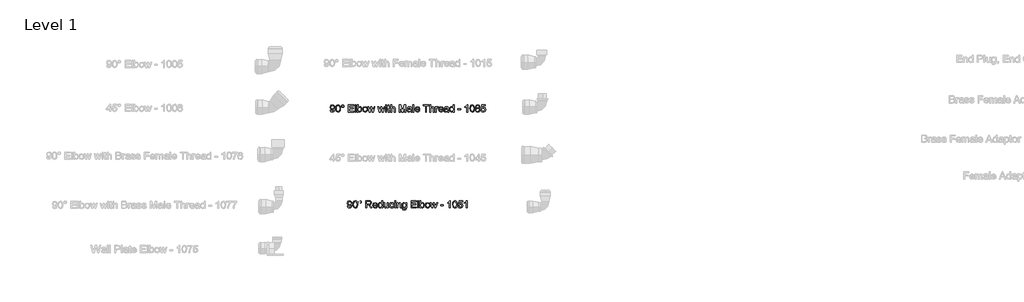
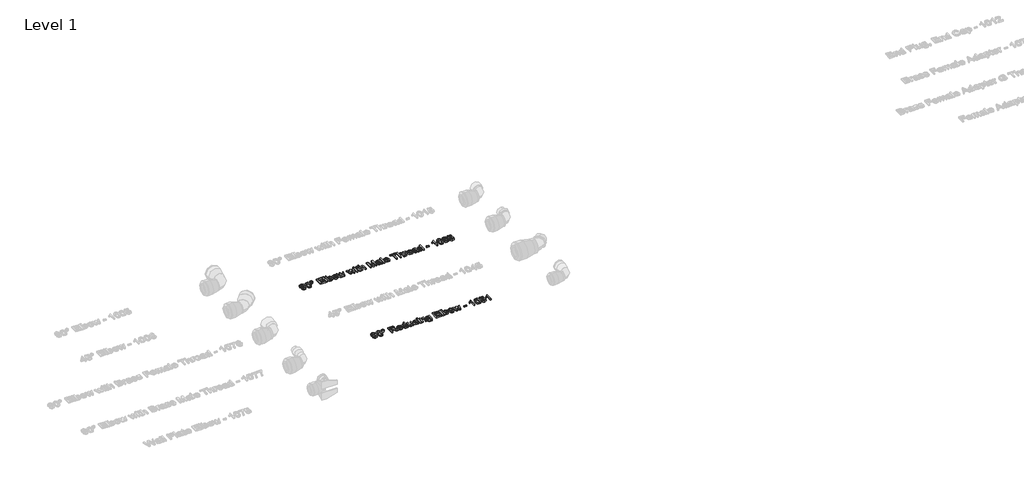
# One storey, part 7 of 13: 2 proxies.
"""IFC4 building model written with IfcOpenShell, lengths in millimetres."""

from ifc_helpers import new_model, si_unit, origin, origin_with_axes, place, context, project, spatial, polyline, outline, extrude, element, save

model = new_model("IFC4")

# Units and contexts
model_context = context("Model", 3, world=origin())
ifc_project = project(units=[si_unit("LENGTHUNIT", "METRE", prefix="MILLI")], contexts=[model_context])

# Site, building, storey
site = spatial("IfcSite", under=ifc_project)
building = spatial("IfcBuilding", under=site)
storey = spatial("IfcBuildingStorey", under=building, Name="Level 1", Elevation=0.0)

# Proxies
placement = place(None, origin())
element("IfcBuildingElementProxy", 1, Name="30 mm Arial", ObjectType="30 mm Arial", at=placement, inside=storey, context=model_context, shape_type="SweptSolid", body=[
    extrude(outline(polyline([(13088.1678756, 4730.4436925), (13091.8601833, 4730.9052309), (13093.5188371, 4727.3823944), (13096.6630679, 4726.2898463), (13099.6522506, 4726.9929713), (13101.6786929, 4728.8715771), (13102.8866256, 4732.0807117), (13103.4202795, 4736.3643655), (13100.4455198, 4734.2874425), (13096.396241, 4733.2129232), (13090.2267698, 4735.8379232), (13087.7063371, 4742.7537886), (13090.349366, 4749.8932117), (13096.9731641, 4752.5975386), (13102.2339814, 4751.0542694), (13105.8541737, 4746.6552309), (13107.0909525, 4738.3908078), (13105.8577795, 4729.4232598), (13102.1907121, 4724.3427309), (13096.489991, 4722.5975386), (13090.8145102, 4724.6564328), (13088.1678756, 4730.4436925)]), holes=[polyline([(13103.3986448, 4742.8403271), (13101.8048948, 4747.2682117), (13097.5717218, 4748.9052309), (13093.1294141, 4747.1420098), (13091.3986448, 4742.5735001), (13093.0356641, 4738.4809521), (13097.4707602, 4736.9052309), (13101.7291737, 4738.4809521), (13103.3986448, 4742.8403271)])]), origin_with_axes(), (0.0, 0.0, 1.0), 5.0),
    extrude(outline(polyline([(13110.3217218, 4737.5903271), (13111.4070583, 4746.0891251), (13114.630616, 4750.9893655), (13120.0140295, 4752.5975386), (13124.3265295, 4751.6456155), (13127.3048948, 4748.9016251), (13129.0356641, 4744.5314328), (13129.7063371, 4737.5903271), (13128.6318179, 4729.1275867), (13125.4190775, 4724.216529), (13120.0140295, 4722.5975386), (13113.2640295, 4725.4100386), (13110.3217218, 4737.5903271)]), holes=[polyline([(13114.0140295, 4737.5975386), (13115.7447987, 4728.4280675), (13120.0140295, 4726.2898463), (13124.2832602, 4728.435279), (13126.0140295, 4737.5975386), (13124.3409525, 4746.6624425), (13119.9707602, 4748.9052309), (13115.802491, 4746.9292694), (13114.0140295, 4737.5975386)])]), origin_with_axes(), (0.0, 0.0, 1.0), 5.0),
    extrude(outline(polyline([(13133.8601833, 4747.5278271), (13135.4863852, 4751.4436925), (13139.3914333, 4753.0590771), (13143.3217218, 4751.4436925), (13144.9371064, 4747.5278271), (13143.3109045, 4743.6083559), (13139.3914333, 4741.982154), (13135.4863852, 4743.5975386), (13133.8601833, 4747.5278271)]), holes=[polyline([(13136.1678756, 4747.5206155), (13137.1161929, 4745.2345578), (13139.4058564, 4744.2898463), (13141.6810968, 4745.2345578), (13142.6294141, 4747.5206155), (13141.6810968, 4749.8066732), (13139.4058564, 4750.7513848), (13137.1161929, 4749.8066732), (13136.1678756, 4747.5206155)])]), origin_with_axes(), (0.0, 0.0, 1.0), 5.0),
    extrude(outline(polyline([(13162.4755679, 4723.0590771), (13162.4755679, 4752.5975386), (13183.7063371, 4752.5975386), (13183.7063371, 4748.9052309), (13166.1678756, 4748.9052309), (13166.1678756, 4740.1360001), (13182.7832602, 4740.1360001), (13182.7832602, 4736.4436925), (13166.1678756, 4736.4436925), (13166.1678756, 4726.7513848), (13184.1678756, 4726.7513848), (13184.1678756, 4723.0590771), (13162.4755679, 4723.0590771)])), origin_with_axes(), (0.0, 0.0, 1.0), 5.0),
    extrude(outline(polyline([(13189.2447987, 4723.0590771), (13189.2447987, 4752.5975386), (13192.9371064, 4752.5975386), (13192.9371064, 4723.0590771), (13189.2447987, 4723.0590771)])), origin_with_axes(), (0.0, 0.0, 1.0), 5.0),
    extrude(outline(polyline([(13202.1678756, 4723.0590771), (13198.4755679, 4723.0590771), (13198.4755679, 4752.5975386), (13202.1678756, 4752.5975386), (13202.1678756, 4741.6432117), (13207.9659525, 4745.2129232), (13211.6654718, 4744.4088367), (13214.5356641, 4742.1480194), (13216.2988852, 4738.6323944), (13216.9371064, 4734.2297501), (13214.2940775, 4725.6335963), (13207.9443179, 4722.5975386), (13202.1678756, 4726.513404), (13202.1678756, 4723.0590771)]), holes=[polyline([(13202.1678756, 4734.0566732), (13203.177491, 4728.8932117), (13207.6270102, 4726.2898463), (13211.5789333, 4728.2081155), (13213.2447987, 4733.9268655), (13211.6474429, 4739.6672501), (13207.7856641, 4741.5206155), (13203.833741, 4739.6023463), (13202.1678756, 4734.0566732)])]), origin_with_axes(), (0.0, 0.0, 1.0), 5.0),
    extrude(outline(polyline([(13220.1678756, 4733.9052309), (13223.3625871, 4742.8114809), (13229.8673948, 4745.2129232), (13236.8445583, 4742.2886444), (13239.552491, 4734.2081155), (13238.3553756, 4727.638404), (13234.8685968, 4723.9208559), (13229.8673948, 4722.5975386), (13222.8469621, 4725.5110001), (13220.1678756, 4733.9052309)]), holes=[polyline([(13223.8601833, 4733.9124425), (13225.5693179, 4728.1900867), (13229.8673948, 4726.2898463), (13234.1510487, 4728.200904), (13235.8601833, 4734.0278271), (13234.1402314, 4739.6203751), (13229.8673948, 4741.5206155), (13225.5693179, 4739.6275867), (13223.8601833, 4733.9124425)])]), origin_with_axes(), (0.0, 0.0, 1.0), 5.0),
    extrude(outline(polyline([(13247.3048948, 4723.0590771), (13240.7063371, 4744.7513848), (13244.5428756, 4744.7513848), (13248.2856641, 4732.0951348), (13249.4034525, 4727.5735001), (13250.3193179, 4731.9292694), (13253.2976833, 4744.7513848), (13257.6967218, 4744.7513848), (13260.6606641, 4731.9653271), (13261.4755679, 4728.0206155), (13262.6438371, 4732.1816732), (13266.3938371, 4744.7513848), (13270.2447987, 4744.7513848), (13263.5957602, 4723.0590771), (13259.1318179, 4723.0590771), (13256.2976833, 4735.7802309), (13255.4755679, 4739.7465771), (13251.8193179, 4723.0590771), (13247.3048948, 4723.0590771)])), origin_with_axes(), (0.0, 0.0, 1.0), 5.0),
    extrude(outline(polyline([(13287.9202795, 4723.0590771), (13281.3217218, 4744.7513848), (13285.1582602, 4744.7513848), (13288.9010487, 4732.0951348), (13290.0188371, 4727.5735001), (13290.9347025, 4731.9292694), (13293.9130679, 4744.7513848), (13298.3121064, 4744.7513848), (13301.2760487, 4731.9653271), (13302.0909525, 4728.0206155), (13303.2592218, 4732.1816732), (13307.0092218, 4744.7513848), (13310.8601833, 4744.7513848), (13304.2111448, 4723.0590771), (13299.7472025, 4723.0590771), (13296.9130679, 4735.7802309), (13296.0909525, 4739.7465771), (13292.4347025, 4723.0590771), (13287.9202795, 4723.0590771)])), origin_with_axes(), (0.0, 0.0, 1.0), 5.0),
    extrude(outline(polyline([(13313.3986448, 4748.9052309), (13313.3986448, 4752.5975386), (13317.0909525, 4752.5975386), (13317.0909525, 4748.9052309), (13313.3986448, 4748.9052309)])), origin_with_axes(), (0.0, 0.0, 1.0), 5.0),
    extrude(outline(polyline([(13313.3986448, 4723.0590771), (13313.3986448, 4744.7513848), (13317.0909525, 4744.7513848), (13317.0909525, 4723.0590771), (13313.3986448, 4723.0590771)])), origin_with_axes(), (0.0, 0.0, 1.0), 5.0),
    extrude(outline(polyline([(13330.4755679, 4726.138404), (13330.9371064, 4722.950904), (13328.1750871, 4722.5975386), (13325.0813371, 4723.2105194), (13323.5380679, 4724.8186925), (13323.0909525, 4729.0085963), (13323.0909525, 4741.0590771), (13320.3217218, 4741.0590771), (13320.3217218, 4744.7513848), (13323.0909525, 4744.7513848), (13323.0909525, 4750.0230194), (13326.7832602, 4752.1936925), (13326.7832602, 4744.7513848), (13330.4755679, 4744.7513848), (13330.4755679, 4741.0590771), (13326.7832602, 4741.0590771), (13326.7832602, 4729.1167694), (13326.9779718, 4727.2129232), (13330.4755679, 4726.138404)])), origin_with_axes(), (0.0, 0.0, 1.0), 5.0),
    extrude(outline(polyline([(13334.1678756, 4723.0590771), (13334.1678756, 4752.5975386), (13337.8601833, 4752.5975386), (13337.8601833, 4741.7369617), (13344.2856641, 4745.2129232), (13348.4322987, 4744.2646059), (13350.9491256, 4741.6432117), (13351.7063371, 4736.7898463), (13351.7063371, 4723.0590771), (13348.0140295, 4723.0590771), (13348.0140295, 4736.4076348), (13346.8385487, 4740.3018655), (13343.5068179, 4741.5206155), (13340.4815775, 4740.6985001), (13338.4623468, 4738.4701348), (13337.8601833, 4734.5831155), (13337.8601833, 4723.0590771), (13334.1678756, 4723.0590771)])), origin_with_axes(), (0.0, 0.0, 1.0), 5.0),
    extrude(outline(polyline([(13368.7832602, 4723.0590771), (13368.7832602, 4752.5975386), (13375.1366256, 4752.5975386), (13381.1798948, 4731.7778271), (13382.3986448, 4727.4292694), (13383.7183564, 4732.138404), (13389.6606641, 4752.5975386), (13396.0140295, 4752.5975386), (13396.0140295, 4723.0590771), (13392.3217218, 4723.0590771), (13392.3217218, 4748.9052309), (13384.9010487, 4723.0590771), (13379.896241, 4723.0590771), (13372.4755679, 4748.9052309), (13372.4755679, 4723.0590771), (13368.7832602, 4723.0590771)])), origin_with_axes(), (0.0, 0.0, 1.0), 5.0),
    extrude(outline(polyline([(13415.8601833, 4725.8283078), (13412.2796545, 4723.325904), (13408.3241256, 4722.5975386), (13402.9623468, 4724.3499425), (13401.0909525, 4728.8283078), (13401.7976833, 4731.7489809), (13403.6546545, 4733.8691732), (13406.239991, 4735.0807117), (13409.4347025, 4735.6360001), (13415.8385487, 4736.9052309), (13414.8433564, 4740.4533078), (13410.7616256, 4741.5206155), (13407.0260487, 4740.810279), (13405.2447987, 4738.2898463), (13401.552491, 4738.7513848), (13403.1498468, 4742.357154), (13406.3661929, 4744.4701348), (13411.2375871, 4745.2129232), (13415.7123468, 4744.5566732), (13418.239991, 4742.9088367), (13419.3722025, 4740.4028271), (13419.552491, 4737.1720578), (13419.552491, 4732.5783078), (13419.739991, 4726.1636444), (13420.4755679, 4723.0590771), (13416.7832602, 4723.0590771), (13415.8601833, 4725.8283078)]), holes=[polyline([(13415.849366, 4732.6900867), (13409.9034525, 4732.0807117), (13406.7267698, 4731.482154), (13405.2880679, 4730.5085963), (13405.8830198, 4727.0903271), (13409.1101833, 4726.2898463), (13412.8457602, 4727.1732598), (13415.2544141, 4729.3114809), (13415.849366, 4732.6900867)])]), origin_with_axes(), (0.0, 0.0, 1.0), 5.0),
    extrude(outline(polyline([(13424.6294141, 4723.0590771), (13424.6294141, 4752.5975386), (13428.3217218, 4752.5975386), (13428.3217218, 4723.0590771), (13424.6294141, 4723.0590771)])), origin_with_axes(), (0.0, 0.0, 1.0), 5.0),
    extrude(outline(polyline([(13449.0476833, 4729.5206155), (13452.6678756, 4729.0590771), (13449.2820583, 4724.2922501), (13442.9755679, 4722.5975386), (13435.3097025, 4725.5218175), (13432.4755679, 4733.7249425), (13435.3385487, 4742.1985001), (13442.7664333, 4745.2129232), (13449.9815775, 4742.2057117), (13452.7832602, 4733.7465771), (13436.1678756, 4732.7513848), (13438.2916737, 4727.9557117), (13443.0476833, 4726.2898463), (13446.6678756, 4727.0614809), (13449.0476833, 4729.5206155)]), holes=[polyline([(13436.1678756, 4736.4436925), (13449.0909525, 4736.4436925), (13447.6125871, 4739.7898463), (13442.7520102, 4741.5206155), (13438.2051352, 4740.1396059), (13436.1678756, 4736.4436925)])]), origin_with_axes(), (0.0, 0.0, 1.0), 5.0),
    extrude(outline(polyline([(13475.8601833, 4723.0590771), (13475.8601833, 4748.9052309), (13466.1678756, 4748.9052309), (13466.1678756, 4752.5975386), (13489.2447987, 4752.5975386), (13489.2447987, 4748.9052309), (13479.552491, 4748.9052309), (13479.552491, 4723.0590771), (13475.8601833, 4723.0590771)])), origin_with_axes(), (0.0, 0.0, 1.0), 5.0),
    extrude(outline(polyline([(13492.9371064, 4723.0590771), (13492.9371064, 4752.5975386), (13496.6294141, 4752.5975386), (13496.6294141, 4741.7369617), (13503.0548948, 4745.2129232), (13507.2015295, 4744.2646059), (13509.7183564, 4741.6432117), (13510.4755679, 4736.7898463), (13510.4755679, 4723.0590771), (13506.7832602, 4723.0590771), (13506.7832602, 4736.4076348), (13505.6077795, 4740.3018655), (13502.2760487, 4741.5206155), (13499.2508083, 4740.6985001), (13497.2315775, 4738.4701348), (13496.6294141, 4734.5831155), (13496.6294141, 4723.0590771), (13492.9371064, 4723.0590771)])), origin_with_axes(), (0.0, 0.0, 1.0), 5.0),
    extrude(outline(polyline([(13515.552491, 4723.0590771), (13515.552491, 4744.7513848), (13518.7832602, 4744.7513848), (13518.7832602, 4741.5422501), (13521.0765295, 4744.4989809), (13523.3842218, 4745.2129232), (13527.0909525, 4744.0735001), (13525.8577795, 4740.763404), (13523.2616256, 4741.5206155), (13521.1738852, 4740.7922501), (13519.8433564, 4738.7730194), (13519.2447987, 4734.4605194), (13519.2447987, 4723.0590771), (13515.552491, 4723.0590771)])), origin_with_axes(), (0.0, 0.0, 1.0), 5.0),
    extrude(outline(polyline([(13544.5861448, 4729.5206155), (13548.2063371, 4729.0590771), (13544.8205198, 4724.2922501), (13538.5140295, 4722.5975386), (13530.8481641, 4725.5218175), (13528.0140295, 4733.7249425), (13530.8770102, 4742.1985001), (13538.3048948, 4745.2129232), (13545.5200391, 4742.2057117), (13548.3217218, 4733.7465771), (13531.7063371, 4732.7513848), (13533.8301352, 4727.9557117), (13538.5861448, 4726.2898463), (13542.2063371, 4727.0614809), (13544.5861448, 4729.5206155)]), holes=[polyline([(13531.7063371, 4736.4436925), (13544.6294141, 4736.4436925), (13543.1510487, 4739.7898463), (13538.2904718, 4741.5206155), (13533.7435968, 4740.1396059), (13531.7063371, 4736.4436925)])]), origin_with_axes(), (0.0, 0.0, 1.0), 5.0),
    extrude(outline(polyline([(13565.8601833, 4725.8283078), (13562.2796545, 4723.325904), (13558.3241256, 4722.5975386), (13552.9623468, 4724.3499425), (13551.0909525, 4728.8283078), (13551.7976833, 4731.7489809), (13553.6546545, 4733.8691732), (13556.239991, 4735.0807117), (13559.4347025, 4735.6360001), (13565.8385487, 4736.9052309), (13564.8433564, 4740.4533078), (13560.7616256, 4741.5206155), (13557.0260487, 4740.810279), (13555.2447987, 4738.2898463), (13551.552491, 4738.7513848), (13553.1498468, 4742.357154), (13556.3661929, 4744.4701348), (13561.2375871, 4745.2129232), (13565.7123468, 4744.5566732), (13568.239991, 4742.9088367), (13569.3722025, 4740.4028271), (13569.552491, 4737.1720578), (13569.552491, 4732.5783078), (13569.739991, 4726.1636444), (13570.4755679, 4723.0590771), (13566.7832602, 4723.0590771), (13565.8601833, 4725.8283078)]), holes=[polyline([(13565.849366, 4732.6900867), (13559.9034525, 4732.0807117), (13556.7267698, 4731.482154), (13555.2880679, 4730.5085963), (13555.8830198, 4727.0903271), (13559.1101833, 4726.2898463), (13562.8457602, 4727.1732598), (13565.2544141, 4729.3114809), (13565.849366, 4732.6900867)])]), origin_with_axes(), (0.0, 0.0, 1.0), 5.0),
    extrude(outline(polyline([(13588.0140295, 4723.0590771), (13588.0140295, 4726.5422501), (13582.1943179, 4722.5975386), (13577.6222025, 4724.0254232), (13574.3914333, 4728.0097982), (13573.2447987, 4733.8835963), (13574.3012891, 4739.7610001), (13577.4671545, 4743.8066732), (13582.1798948, 4745.2129232), (13585.583741, 4744.2069136), (13588.0140295, 4741.5927309), (13588.0140295, 4752.5975386), (13591.7063371, 4752.5975386), (13591.7063371, 4723.0590771), (13588.0140295, 4723.0590771)]), holes=[polyline([(13576.9371064, 4733.8980194), (13578.6029718, 4728.1828751), (13582.5332602, 4726.2898463), (13586.4166737, 4728.0963367), (13588.0140295, 4733.6167694), (13586.3878275, 4739.6095578), (13582.3818179, 4741.5206155), (13578.4947987, 4739.685279), (13576.9371064, 4733.8980194)])]), origin_with_axes(), (0.0, 0.0, 1.0), 5.0),
    extrude(outline(polyline([(13606.9371064, 4731.8283078), (13606.9371064, 4735.5206155), (13618.4755679, 4735.5206155), (13618.4755679, 4731.8283078), (13606.9371064, 4731.8283078)])), origin_with_axes(), (0.0, 0.0, 1.0), 5.0),
    extrude(outline(polyline([(13647.0909525, 4723.0590771), (13643.3986448, 4723.0590771), (13643.3986448, 4746.0783078), (13639.9010487, 4743.5867213), (13636.0140295, 4741.7225386), (13636.0140295, 4745.2129232), (13641.4262891, 4748.6672501), (13644.7111448, 4752.5975386), (13647.0909525, 4752.5975386), (13647.0909525, 4723.0590771)])), origin_with_axes(), (0.0, 0.0, 1.0), 5.0),
    extrude(outline(polyline([(13655.8601833, 4737.5903271), (13656.9455198, 4746.0891251), (13660.1690775, 4750.9893655), (13665.552491, 4752.5975386), (13669.864991, 4751.6456155), (13672.8433564, 4748.9016251), (13674.5741256, 4744.5314328), (13675.2447987, 4737.5903271), (13674.1702795, 4729.1275867), (13670.9575391, 4724.216529), (13665.552491, 4722.5975386), (13658.802491, 4725.4100386), (13655.8601833, 4737.5903271)]), holes=[polyline([(13659.552491, 4737.5975386), (13661.2832602, 4728.4280675), (13665.552491, 4726.2898463), (13669.8217218, 4728.435279), (13671.552491, 4737.5975386), (13669.8794141, 4746.6624425), (13665.5092218, 4748.9052309), (13661.3409525, 4746.9292694), (13659.552491, 4737.5975386)])]), origin_with_axes(), (0.0, 0.0, 1.0), 5.0),
    extrude(outline(polyline([(13683.8553756, 4739.3283078), (13680.4911929, 4741.6215771), (13679.3986448, 4745.1912886), (13681.7784525, 4750.4629232), (13688.1173948, 4752.5975386), (13694.5140295, 4750.4124425), (13696.9371064, 4745.0903271), (13695.8589814, 4741.6107598), (13692.5885487, 4739.3283078), (13696.5152314, 4736.4328751), (13697.8601833, 4731.6552309), (13695.1919141, 4725.2081155), (13688.1678756, 4722.5975386), (13681.1438371, 4725.2189328), (13678.4755679, 4731.7561925), (13679.8746064, 4736.6456155), (13683.8553756, 4739.3283078)]), holes=[polyline([(13683.0909525, 4745.0831155), (13684.3998468, 4742.1840771), (13688.2111448, 4741.0590771), (13691.9467218, 4742.1768655), (13693.2447987, 4744.9172501), (13691.9034525, 4747.7549905), (13688.1678756, 4748.9052309), (13684.4214814, 4747.7802309), (13683.0909525, 4745.0831155)]), polyline([(13682.1678756, 4731.8860001), (13682.7844621, 4729.1059521), (13684.9659525, 4727.0254232), (13688.1967218, 4726.2898463), (13692.5957602, 4727.8367213), (13694.1678756, 4731.7706155), (13692.5452795, 4735.7802309), (13688.0741256, 4737.3667694), (13683.7291737, 4735.8018655), (13682.1678756, 4731.8860001)])]), origin_with_axes(), (0.0, 0.0, 1.0), 5.0),
    extrude(outline(polyline([(13701.0909525, 4730.9052309), (13704.7832602, 4731.3667694), (13706.6438371, 4727.5626828), (13710.5020102, 4726.2898463), (13715.1318179, 4728.060279), (13716.7832602, 4732.7585963), (13715.2363852, 4737.1432117), (13710.5597025, 4738.7513848), (13707.318116, 4738.1095578), (13705.2447987, 4736.4436925), (13701.552491, 4736.9052309), (13704.7832602, 4752.1360001), (13719.0909525, 4752.1360001), (13719.0909525, 4748.4436925), (13707.7688371, 4748.4436925), (13706.1895102, 4740.3090771), (13711.5909525, 4742.4436925), (13717.9046545, 4739.7970578), (13720.4755679, 4732.9893655), (13718.1606641, 4726.138404), (13710.4875871, 4722.5975386), (13703.9719621, 4724.872779), (13701.0909525, 4730.9052309)])), origin_with_axes(), (0.0, 0.0, 1.0), 5.0),
])
element("IfcBuildingElementProxy", 2, Name="30 mm Arial", ObjectType="30 mm Arial", at=placement, inside=storey, context=model_context, shape_type="SweptSolid", body=[
    extrude(outline(polyline([(13158.3217218, 4340.2892741), (13162.0140295, 4340.7508126), (13163.6726833, 4337.2279761), (13166.8169141, 4336.135428), (13169.8060968, 4336.838553), (13171.8325391, 4338.7171588), (13173.0404718, 4341.9262934), (13173.5741256, 4346.2099472), (13170.599366, 4344.1330241), (13166.5500871, 4343.0585049), (13160.380616, 4345.6835049), (13157.8601833, 4352.5993703), (13160.5032121, 4359.7387934), (13167.1270102, 4362.4431203), (13172.3878275, 4360.8998511), (13176.0080198, 4356.5008126), (13177.2447987, 4348.2363895), (13176.0116256, 4339.2688414), (13172.3445583, 4334.1883126), (13166.6438371, 4332.4431203), (13160.9683564, 4334.5020145), (13158.3217218, 4340.2892741)]), holes=[polyline([(13173.552491, 4352.6859088), (13171.958741, 4357.1137934), (13167.7255679, 4358.7508126), (13163.2832602, 4356.9875914), (13161.552491, 4352.4190818), (13163.1895102, 4348.3265338), (13167.6246064, 4346.7508126), (13171.8830198, 4348.3265338), (13173.552491, 4352.6859088)])]), origin_with_axes(), (0.0, 0.0, 1.0), 5.0),
    extrude(outline(polyline([(13180.4755679, 4347.4359088), (13181.5609045, 4355.9347068), (13184.7844621, 4360.8349472), (13190.1678756, 4362.4431203), (13194.4803756, 4361.4911972), (13197.458741, 4358.7472068), (13199.1895102, 4354.3770145), (13199.8601833, 4347.4359088), (13198.7856641, 4338.9731684), (13195.5729237, 4334.0621107), (13190.1678756, 4332.4431203), (13183.4178756, 4335.2556203), (13180.4755679, 4347.4359088)]), holes=[polyline([(13184.1678756, 4347.4431203), (13185.8986448, 4338.2736491), (13190.1678756, 4336.135428), (13194.4371064, 4338.2808607), (13196.1678756, 4347.4431203), (13194.4947987, 4356.5080241), (13190.1246064, 4358.7508126), (13185.9563371, 4356.7748511), (13184.1678756, 4347.4431203)])]), origin_with_axes(), (0.0, 0.0, 1.0), 5.0),
    extrude(outline(polyline([(13204.0140295, 4357.3734088), (13205.6402314, 4361.2892741), (13209.5452795, 4362.9046588), (13213.4755679, 4361.2892741), (13215.0909525, 4357.3734088), (13213.4647506, 4353.4539376), (13209.5452795, 4351.8277357), (13205.6402314, 4353.4431203), (13204.0140295, 4357.3734088)]), holes=[polyline([(13206.3217218, 4357.3661972), (13207.2700391, 4355.0801395), (13209.5597025, 4354.135428), (13211.8349429, 4355.0801395), (13212.7832602, 4357.3661972), (13211.8349429, 4359.6522549), (13209.5597025, 4360.5969664), (13207.2700391, 4359.6522549), (13206.3217218, 4357.3661972)])]), origin_with_axes(), (0.0, 0.0, 1.0), 5.0),
    extrude(outline(polyline([(13232.6294141, 4332.9046588), (13232.6294141, 4362.4431203), (13245.3577795, 4362.4431203), (13251.2676352, 4361.6462453), (13254.4984045, 4358.8265338), (13255.7063371, 4354.3589857), (13253.7051352, 4349.0368703), (13247.521241, 4346.2892741), (13249.6197987, 4344.7099472), (13252.6125871, 4340.9094664), (13257.5380679, 4332.9046588), (13253.2472025, 4332.9046588), (13249.4034525, 4339.0272549), (13246.6270102, 4343.0801395), (13244.6762891, 4344.994803), (13242.9202795, 4345.697928), (13240.7784525, 4345.8277357), (13236.3217218, 4345.8277357), (13236.3217218, 4332.9046588), (13232.6294141, 4332.9046588)]), holes=[polyline([(13236.3217218, 4349.5200434), (13244.5861448, 4349.5200434), (13248.8012891, 4350.0428799), (13251.1955198, 4351.7159568), (13252.0140295, 4354.2219664), (13250.4527314, 4357.4743703), (13245.5164333, 4358.7508126), (13236.3217218, 4358.7508126), (13236.3217218, 4349.5200434)])]), origin_with_axes(), (0.0, 0.0, 1.0), 5.0),
    extrude(outline(polyline([(13276.8938371, 4339.3661972), (13280.5140295, 4338.9046588), (13277.1282121, 4334.1378318), (13270.8217218, 4332.4431203), (13263.1558564, 4335.3673991), (13260.3217218, 4343.5705241), (13263.1847025, 4352.0440818), (13270.6125871, 4355.0585049), (13277.8277314, 4352.0512934), (13280.6294141, 4343.5921588), (13264.0140295, 4342.5969664), (13266.1378275, 4337.8012934), (13270.8938371, 4336.135428), (13274.5140295, 4336.9070626), (13276.8938371, 4339.3661972)]), holes=[polyline([(13264.0140295, 4346.2892741), (13276.9371064, 4346.2892741), (13275.458741, 4349.635428), (13270.5981641, 4351.3661972), (13266.0512891, 4349.9851876), (13264.0140295, 4346.2892741)])]), origin_with_axes(), (0.0, 0.0, 1.0), 5.0),
    extrude(outline(polyline([(13297.7063371, 4332.9046588), (13297.7063371, 4336.3878318), (13291.8866256, 4332.4431203), (13287.3145102, 4333.8710049), (13284.083741, 4337.8553799), (13282.9371064, 4343.729178), (13283.9935968, 4349.6065818), (13287.1594621, 4353.6522549), (13291.8722025, 4355.0585049), (13295.2760487, 4354.0524953), (13297.7063371, 4351.4383126), (13297.7063371, 4362.4431203), (13301.3986448, 4362.4431203), (13301.3986448, 4332.9046588), (13297.7063371, 4332.9046588)]), holes=[polyline([(13286.6294141, 4343.7436011), (13288.2952795, 4338.0284568), (13292.2255679, 4336.135428), (13296.1089814, 4337.9419184), (13297.7063371, 4343.4623511), (13296.0801352, 4349.4551395), (13292.0741256, 4351.3661972), (13288.1871064, 4349.5308607), (13286.6294141, 4343.7436011)])]), origin_with_axes(), (0.0, 0.0, 1.0), 5.0),
    extrude(outline(polyline([(13320.7832602, 4332.9046588), (13320.7832602, 4336.6330241), (13314.1197987, 4332.4431203), (13310.6474429, 4333.1786972), (13308.2532121, 4335.0248511), (13307.1534525, 4337.7436011), (13306.9371064, 4341.1762934), (13306.9371064, 4354.5969664), (13310.6294141, 4354.5969664), (13310.6294141, 4342.9142741), (13310.8529718, 4339.1498511), (13312.3133083, 4336.9395145), (13315.0645102, 4336.135428), (13318.1474429, 4336.9575434), (13320.1847025, 4339.1967261), (13320.7832602, 4343.3109088), (13320.7832602, 4354.5969664), (13324.4755679, 4354.5969664), (13324.4755679, 4332.9046588), (13320.7832602, 4332.9046588)])), origin_with_axes(), (0.0, 0.0, 1.0), 5.0),
    extrude(outline(polyline([(13343.3986448, 4340.7508126), (13347.0909525, 4340.2892741), (13344.1270102, 4334.5236491), (13338.271241, 4332.4431203), (13331.2724429, 4335.3457645), (13328.6294141, 4343.6714857), (13329.7580198, 4349.8048991), (13333.1979237, 4353.7460049), (13338.2207602, 4355.0585049), (13343.8349429, 4353.2556203), (13346.6294141, 4348.135428), (13342.9371064, 4347.6738895), (13341.224366, 4350.4395145), (13338.2496064, 4351.3661972), (13333.9695583, 4349.541678), (13332.3217218, 4343.7724472), (13333.9335006, 4337.9491299), (13338.1486448, 4336.135428), (13341.6282121, 4337.2676395), (13343.3986448, 4340.7508126)])), origin_with_axes(), (0.0, 0.0, 1.0), 5.0),
    extrude(outline(polyline([(13350.3217218, 4332.9046588), (13350.3217218, 4354.5969664), (13354.0140295, 4354.5969664), (13354.0140295, 4332.9046588), (13350.3217218, 4332.9046588)])), origin_with_axes(), (0.0, 0.0, 1.0), 5.0),
    extrude(outline(polyline([(13350.3217218, 4358.7508126), (13350.3217218, 4362.4431203), (13354.0140295, 4362.4431203), (13354.0140295, 4358.7508126), (13350.3217218, 4358.7508126)])), origin_with_axes(), (0.0, 0.0, 1.0), 5.0),
    extrude(outline(polyline([(13359.552491, 4332.9046588), (13359.552491, 4354.5969664), (13363.2447987, 4354.5969664), (13363.2447987, 4351.5681203), (13369.9226833, 4355.0585049), (13373.4094621, 4354.3553799), (13375.7892698, 4352.5092261), (13376.896241, 4349.7940818), (13377.0909525, 4346.2243703), (13377.0909525, 4332.9046588), (13373.3986448, 4332.9046588), (13373.3986448, 4345.7267741), (13372.9731641, 4348.9936011), (13371.4695583, 4350.7207645), (13368.9347025, 4351.3661972), (13364.9286929, 4349.916678), (13363.2447987, 4344.4142741), (13363.2447987, 4332.9046588), (13359.552491, 4332.9046588)])), origin_with_axes(), (0.0, 0.0, 1.0), 5.0),
    extrude(outline(polyline([(13381.2447987, 4331.0585049), (13384.9371064, 4330.5969664), (13386.1342218, 4328.6498511), (13389.7183564, 4327.8277357), (13393.4972025, 4328.7580241), (13395.3000871, 4331.3686011), (13395.552491, 4335.6738895), (13389.7832602, 4332.9046588), (13383.1378275, 4336.1282164), (13380.7832602, 4343.8589857), (13381.8397506, 4349.5813414), (13384.8974429, 4353.6306203), (13389.6029718, 4355.0585049), (13395.552491, 4351.8277357), (13395.552491, 4354.5969664), (13399.2447987, 4354.5969664), (13399.2447987, 4335.8686011), (13398.2351833, 4328.6967261), (13395.036866, 4325.3613895), (13389.646241, 4324.135428), (13383.505616, 4325.8625914), (13381.2447987, 4331.0585049)]), holes=[polyline([(13384.4755679, 4344.1113895), (13386.0512891, 4338.3962453), (13390.0068179, 4336.5969664), (13393.9551352, 4338.385428), (13395.552491, 4344.0032164), (13393.9082602, 4349.5092261), (13389.9491256, 4351.3661972), (13386.0729237, 4349.5380722), (13384.4755679, 4344.1113895)])]), origin_with_axes(), (0.0, 0.0, 1.0), 5.0),
    extrude(outline(polyline([(13416.7832602, 4332.9046588), (13416.7832602, 4362.4431203), (13438.0140295, 4362.4431203), (13438.0140295, 4358.7508126), (13420.4755679, 4358.7508126), (13420.4755679, 4349.9815818), (13437.0909525, 4349.9815818), (13437.0909525, 4346.2892741), (13420.4755679, 4346.2892741), (13420.4755679, 4336.5969664), (13438.4755679, 4336.5969664), (13438.4755679, 4332.9046588), (13416.7832602, 4332.9046588)])), origin_with_axes(), (0.0, 0.0, 1.0), 5.0),
    extrude(outline(polyline([(13443.552491, 4332.9046588), (13443.552491, 4362.4431203), (13447.2447987, 4362.4431203), (13447.2447987, 4332.9046588), (13443.552491, 4332.9046588)])), origin_with_axes(), (0.0, 0.0, 1.0), 5.0),
    extrude(outline(polyline([(13456.4755679, 4332.9046588), (13452.7832602, 4332.9046588), (13452.7832602, 4362.4431203), (13456.4755679, 4362.4431203), (13456.4755679, 4351.4887934), (13462.2736448, 4355.0585049), (13465.9731641, 4354.2544184), (13468.8433564, 4351.9936011), (13470.6065775, 4348.4779761), (13471.2447987, 4344.0753318), (13468.6017698, 4335.479178), (13462.2520102, 4332.4431203), (13456.4755679, 4336.3589857), (13456.4755679, 4332.9046588)]), holes=[polyline([(13456.4755679, 4343.9022549), (13457.4851833, 4338.7387934), (13461.9347025, 4336.135428), (13465.8866256, 4338.0536972), (13467.552491, 4343.7724472), (13465.9551352, 4349.5128318), (13462.0933564, 4351.3661972), (13458.1414333, 4349.447928), (13456.4755679, 4343.9022549)])]), origin_with_axes(), (0.0, 0.0, 1.0), 5.0),
    extrude(outline(polyline([(13474.4755679, 4343.7508126), (13477.6702795, 4352.6570626), (13484.1750871, 4355.0585049), (13491.1522506, 4352.1342261), (13493.8601833, 4344.0536972), (13492.6630679, 4337.4839857), (13489.1762891, 4333.7664376), (13484.1750871, 4332.4431203), (13477.1546545, 4335.3565818), (13474.4755679, 4343.7508126)]), holes=[polyline([(13478.1678756, 4343.7580241), (13479.8770102, 4338.0356684), (13484.1750871, 4336.135428), (13488.458741, 4338.0464857), (13490.1678756, 4343.8734088), (13488.4479237, 4349.4659568), (13484.1750871, 4351.3661972), (13479.8770102, 4349.4731684), (13478.1678756, 4343.7580241)])]), origin_with_axes(), (0.0, 0.0, 1.0), 5.0),
    extrude(outline(polyline([(13501.6125871, 4332.9046588), (13495.0140295, 4354.5969664), (13498.8505679, 4354.5969664), (13502.5933564, 4341.9407164), (13503.7111448, 4337.4190818), (13504.6270102, 4341.7748511), (13507.6053756, 4354.5969664), (13512.0044141, 4354.5969664), (13514.9683564, 4341.8109088), (13515.7832602, 4337.8661972), (13516.9515295, 4342.0272549), (13520.7015295, 4354.5969664), (13524.552491, 4354.5969664), (13517.9034525, 4332.9046588), (13513.4395102, 4332.9046588), (13510.6053756, 4345.6258126), (13509.7832602, 4349.5921588), (13506.1270102, 4332.9046588), (13501.6125871, 4332.9046588)])), origin_with_axes(), (0.0, 0.0, 1.0), 5.0),
    extrude(outline(polyline([(13536.7832602, 4341.6738895), (13536.7832602, 4345.3661972), (13548.3217218, 4345.3661972), (13548.3217218, 4341.6738895), (13536.7832602, 4341.6738895)])), origin_with_axes(), (0.0, 0.0, 1.0), 5.0),
    extrude(outline(polyline([(13576.9371064, 4332.9046588), (13573.2447987, 4332.9046588), (13573.2447987, 4355.9238895), (13569.7472025, 4353.432303), (13565.8601833, 4351.5681203), (13565.8601833, 4355.0585049), (13571.2724429, 4358.5128318), (13574.5572987, 4362.4431203), (13576.9371064, 4362.4431203), (13576.9371064, 4332.9046588)])), origin_with_axes(), (0.0, 0.0, 1.0), 5.0),
    extrude(outline(polyline([(13585.7063371, 4347.4359088), (13586.7916737, 4355.9347068), (13590.0152314, 4360.8349472), (13595.3986448, 4362.4431203), (13599.7111448, 4361.4911972), (13602.6895102, 4358.7472068), (13604.4202795, 4354.3770145), (13605.0909525, 4347.4359088), (13604.0164333, 4338.9731684), (13600.8036929, 4334.0621107), (13595.3986448, 4332.4431203), (13588.6486448, 4335.2556203), (13585.7063371, 4347.4359088)]), holes=[polyline([(13589.3986448, 4347.4431203), (13591.1294141, 4338.2736491), (13595.3986448, 4336.135428), (13599.6678756, 4338.2808607), (13601.3986448, 4347.4431203), (13599.7255679, 4356.5080241), (13595.3553756, 4358.7508126), (13591.1871064, 4356.7748511), (13589.3986448, 4347.4431203)])]), origin_with_axes(), (0.0, 0.0, 1.0), 5.0),
    extrude(outline(polyline([(13608.3217218, 4340.7508126), (13612.0140295, 4341.2123511), (13613.8746064, 4337.4082645), (13617.7327795, 4336.135428), (13622.3625871, 4337.9058607), (13624.0140295, 4342.604178), (13622.4671545, 4346.9887934), (13617.7904718, 4348.5969664), (13614.5488852, 4347.9551395), (13612.4755679, 4346.2892741), (13608.7832602, 4346.7508126), (13612.0140295, 4361.9815818), (13626.3217218, 4361.9815818), (13626.3217218, 4358.2892741), (13614.9996064, 4358.2892741), (13613.4202795, 4350.1546588), (13618.8217218, 4352.2892741), (13625.1354237, 4349.6426395), (13627.7063371, 4342.8349472), (13625.3914333, 4335.9839857), (13617.7183564, 4332.4431203), (13611.2027314, 4334.7183607), (13608.3217218, 4340.7508126)])), origin_with_axes(), (0.0, 0.0, 1.0), 5.0),
    extrude(outline(polyline([(13644.7832602, 4332.9046588), (13641.0909525, 4332.9046588), (13641.0909525, 4355.9238895), (13637.5933564, 4353.432303), (13633.7063371, 4351.5681203), (13633.7063371, 4355.0585049), (13639.1185968, 4358.5128318), (13642.4034525, 4362.4431203), (13644.7832602, 4362.4431203), (13644.7832602, 4332.9046588)])), origin_with_axes(), (0.0, 0.0, 1.0), 5.0),
])

save(model, "model.ifc")
